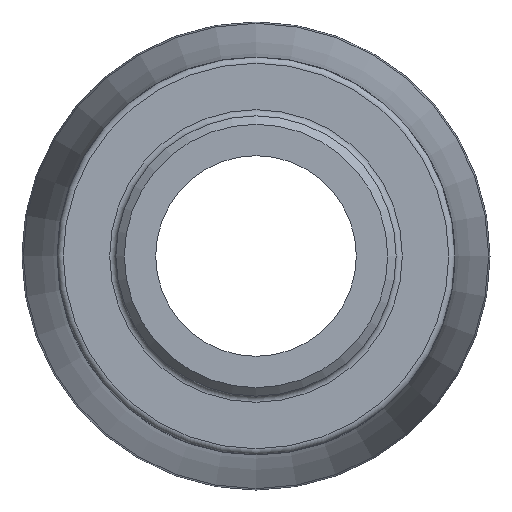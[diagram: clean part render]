
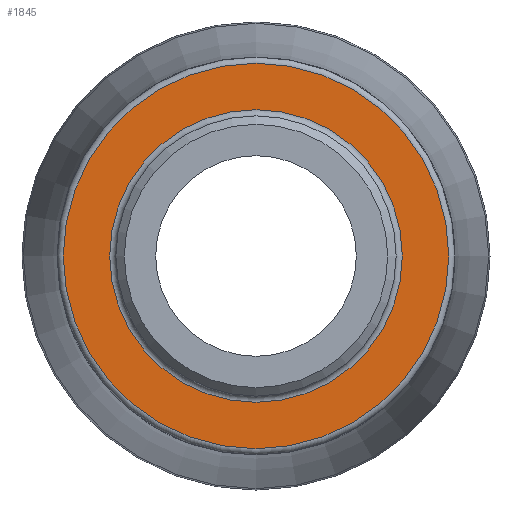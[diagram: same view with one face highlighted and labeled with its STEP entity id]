
A CAD part, left-side view. The second image highlights one B-rep face of the part: STEP entity #1845.
In plain terms, the highlighted planar face has unit normal (-1, 0, 0).
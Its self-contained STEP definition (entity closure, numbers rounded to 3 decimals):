
#194=FACE_BOUND('',#408,.T.);
#208=PLANE('',#2054);
#294=FACE_OUTER_BOUND('',#407,.T.);
#407=EDGE_LOOP('',(#1458,#1459));
#408=EDGE_LOOP('',(#1460,#1461));
#744=CIRCLE('',#2052,21.88);
#745=CIRCLE('',#2053,21.88);
#746=CIRCLE('',#2055,28.825);
#747=CIRCLE('',#2056,28.825);
#881=VERTEX_POINT('',#3251);
#882=VERTEX_POINT('',#3253);
#883=VERTEX_POINT('',#3257);
#884=VERTEX_POINT('',#3258);
#1092=EDGE_CURVE('',#881,#882,#744,.T.);
#1093=EDGE_CURVE('',#882,#881,#745,.T.);
#1094=EDGE_CURVE('',#883,#884,#746,.T.);
#1095=EDGE_CURVE('',#884,#883,#747,.T.);
#1458=ORIENTED_EDGE('',*,*,#1094,.F.);
#1459=ORIENTED_EDGE('',*,*,#1095,.F.);
#1460=ORIENTED_EDGE('',*,*,#1093,.F.);
#1461=ORIENTED_EDGE('',*,*,#1092,.F.);
#1845=ADVANCED_FACE('',(#294,#194),#208,.T.);
#2052=AXIS2_PLACEMENT_3D('',#3254,#2427,#2428);
#2053=AXIS2_PLACEMENT_3D('',#3255,#2429,#2430);
#2054=AXIS2_PLACEMENT_3D('',#3256,#2431,#2432);
#2055=AXIS2_PLACEMENT_3D('',#3259,#2433,#2434);
#2056=AXIS2_PLACEMENT_3D('',#3260,#2435,#2436);
#2427=DIRECTION('center_axis',(-1.,0.,0.));
#2428=DIRECTION('ref_axis',(0.,-1.,0.));
#2429=DIRECTION('center_axis',(-1.,0.,0.));
#2430=DIRECTION('ref_axis',(0.,-1.,0.));
#2431=DIRECTION('center_axis',(-1.,0.,0.));
#2432=DIRECTION('ref_axis',(0.,0.,1.));
#2433=DIRECTION('center_axis',(1.,0.,0.));
#2434=DIRECTION('ref_axis',(0.,-1.,0.));
#2435=DIRECTION('center_axis',(1.,0.,0.));
#2436=DIRECTION('ref_axis',(0.,-1.,0.));
#3251=CARTESIAN_POINT('',(22.,0.,21.88));
#3253=CARTESIAN_POINT('',(22.,21.88,0.));
#3254=CARTESIAN_POINT('Origin',(22.,0.,0.));
#3255=CARTESIAN_POINT('Origin',(22.,0.,0.));
#3256=CARTESIAN_POINT('Origin',(22.,29.75,0.));
#3257=CARTESIAN_POINT('',(22.,28.825,0.));
#3258=CARTESIAN_POINT('',(22.,0.,28.825));
#3259=CARTESIAN_POINT('Origin',(22.,0.,0.));
#3260=CARTESIAN_POINT('Origin',(22.,0.,0.));
